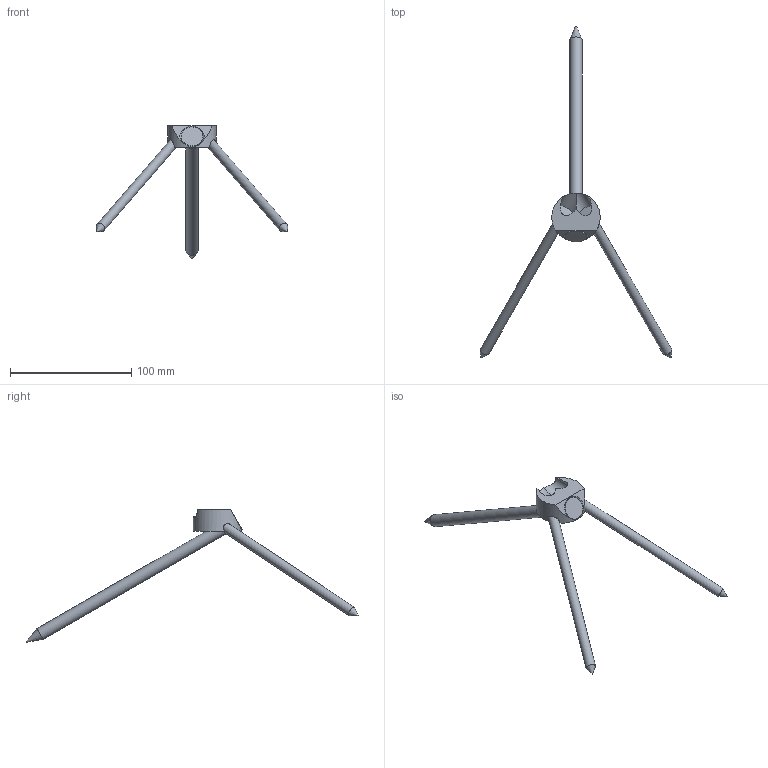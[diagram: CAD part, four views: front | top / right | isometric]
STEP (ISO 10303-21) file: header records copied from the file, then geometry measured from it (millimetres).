
FILE_DESCRIPTION(/* description */ ('Unknown'),/* implementation_level */ '2;1');
FILE_NAME(/* name */ 'T-JOINT D40_W30_2xSK 8x160_1xSK 10x 200',/* time_stamp */ '2022-02-04T10:04:59+01:00',/* author */ ('Unknown'),/* organization */ ('Unknown'),/* preprocessor_version */ 'ST-DEVELOPER v16.7',/* originating_system */ 'Solid Edge',/* authorisation */ 'Unknown');
FILE_SCHEMA (('AUTOMOTIVE_DESIGN {1 0 10303 214 3 1 1}'));
Length unit declared in the file: millimetre
Products named in the file (4): T_JOINT_D40_W30_2x SK8x160_1xSK10x200; T-Joint_D40_W30; SK_Schraube_8x160; SK Schraube 10x200_ohne_Gewinde_22042020
Assembly tree (4 placements, depth 2):
  T_JOINT_D40_W30_2x SK8x160_1xSK10x200
    T-Joint_D40_W30
    SK_Schraube_8x160  x2
    SK Schraube 10x200_ohne_Gewinde_22042020
Bounding box: 157.88 x 273.33 x 109.36 mm (x, y, z)
Volume: 43171.8 mm3; surface area: 20996.8 mm2
Topology: 4 solids, 4 shells, 33 faces, 76 edges, 46 vertices
Faces by surface type: cylinder 14, plane 9, cone 9, torus 1
Full cylindrical faces by diameter (mm): 6.3 x1, 8 x2, 8.5 x2, 10 x2, 12.5 x1, 15 x2, 15.5 x2, 18 x1, 39.8 x1
Entity records: 803 total; most frequent: CARTESIAN_POINT 154, DIRECTION 131, ORIENTED_EDGE 76, AXIS2_PLACEMENT_3D 65, FACE_BOUND 51, EDGE_LOOP 50, EDGE_CURVE 38, VERTEX_POINT 33
